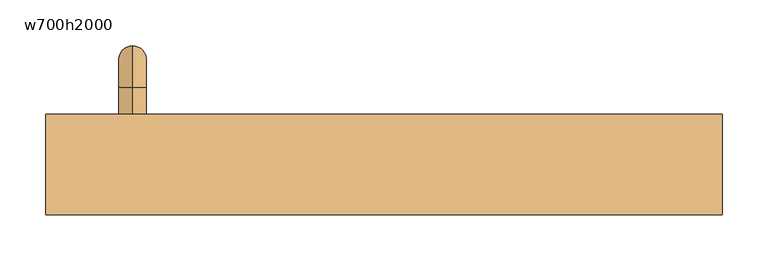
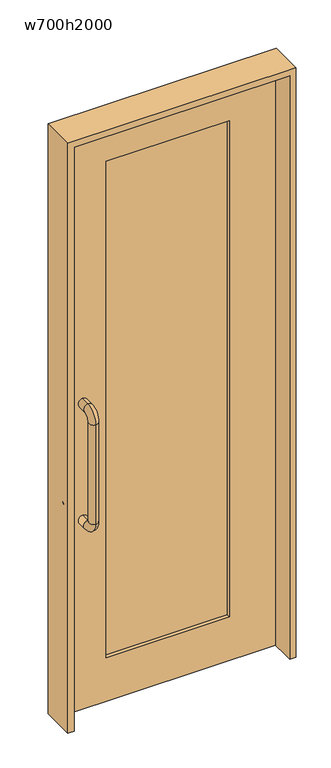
"""IFC4 building model written with IfcOpenShell, lengths in millimetres: door geometry, 片開き_ガラス四方框 : w700h2000."""

import ifcopenshell
import ifcopenshell.guid

model = None  # the IFC model being written
_history = None  # IfcOwnerHistory: only IFC2X3 demands one
_inside = {}  # id of a spatial element -> (the spatial element, [elements in it])
_under = {}  # id of a project, library or spatial element -> (it, [spatial elements below it])
_declared = {}  # id of a project -> (the project, [libraries it declares])
_typed = {}  # id of a type object -> (the type object, [elements of that type])
_made_of = {}  # id of a material, layer set ... -> (it, [elements and type objects made of it])


def new_model(schema):
    """Start an empty IFC model of exactly this schema.

    Asked for "IFC4X3", IfcOpenShell would pick the latest addendum, in which some entities
    have other attributes; the version numbers below select the first issue.
    IFC2X3 requires an IfcOwnerHistory on every rooted entity: one is made here for all.
    """
    global model, _history
    if schema == "IFC4X3":
        model = ifcopenshell.file(schema_version=(4, 3, 0, 0))
    else:
        model = ifcopenshell.file(schema=schema)
    _inside.clear()
    _under.clear()
    _declared.clear()
    _typed.clear()
    _made_of.clear()
    _history = None
    if model.schema == "IFC2X3":
        org = make("IfcOrganization", Name="unknown")
        user = make(
            "IfcPersonAndOrganization",
            ThePerson=make("IfcPerson", FamilyName="unknown"),
            TheOrganization=org,
        )
        app = make(
            "IfcApplication",
            ApplicationDeveloper=org,
            Version="unknown",
            ApplicationFullName="unknown",
            ApplicationIdentifier="unknown",
        )
        _history = make(
            "IfcOwnerHistory",
            OwningUser=user,
            OwningApplication=app,
            ChangeAction="ADDED",
            CreationDate=0,
        )
    return model


def make(cls, **values):
    """One entity of the class cls with the attributes given. An attribute that is None is left unset."""
    return model.create_entity(
        cls, **{name: value for name, value in values.items() if value is not None}
    )


def rooted(cls, **values):
    """An entity with a GlobalId (a new one), such as an element, a storey or a relation."""
    return make(cls, GlobalId=ifcopenshell.guid.new(), OwnerHistory=_history, **values)


def si_unit(unit_type, name, prefix=None):
    """IfcSIUnit, for example si_unit("LENGTHUNIT", "METRE", prefix="MILLI")."""
    return make("IfcSIUnit", UnitType=unit_type, Prefix=prefix, Name=name)


def assignment(units):
    """IfcUnitAssignment: the units of a project."""
    return None if units is None else make("IfcUnitAssignment", Units=units)


def point(xyz):
    """IfcCartesianPoint."""
    return None if xyz is None else make("IfcCartesianPoint", Coordinates=xyz)


def direction(xyz):
    """IfcDirection."""
    return None if xyz is None else make("IfcDirection", DirectionRatios=xyz)


def frame(location, z_axis=None, x_axis=None):
    """IfcAxis2Placement3D, a coordinate frame: its origin and axes. An axis left out is left unset."""
    return make(
        "IfcAxis2Placement3D",
        Location=point(location),
        Axis=direction(z_axis),
        RefDirection=direction(x_axis),
    )


def origin():
    """The frame at (0, 0, 0) with its axes left unset."""
    return frame((0.0, 0.0, 0.0))


def place(relative_to, where):
    """IfcLocalPlacement: puts the frame where relative to a parent placement (None: the world)."""
    return make(
        "IfcLocalPlacement", PlacementRelTo=relative_to, RelativePlacement=where
    )


def context(
    kind, dimensions, precision=None, world=None, true_north=None, identifier=None
):
    """IfcGeometricRepresentationContext, for example the 3D "Model" context."""
    return make(
        "IfcGeometricRepresentationContext",
        ContextIdentifier=identifier,
        ContextType=kind,
        CoordinateSpaceDimension=dimensions,
        Precision=precision,
        WorldCoordinateSystem=world,
        TrueNorth=true_north,
    )


def project(units=None, contexts=None):
    """IfcProject with its units and contexts."""
    return rooted(
        "IfcProject",
        Name="project",
        RepresentationContexts=contexts,
        UnitsInContext=assignment(units),
    )


def spatial(cls, under=None, at=None, **own):
    """A site, building, storey or space (cls), placed at a placement, below another one or the project."""
    s = rooted(cls, ObjectPlacement=at, **own)
    if under is not None:
        _under.setdefault(under.id(), (under, []))[1].append(s)
    return s


def polyline(points):
    """IfcPolyline through the points."""
    return make("IfcPolyline", Points=[point(p) for p in points])


def circle_curve(where, radius):
    """IfcCircle in the frame where."""
    return make("IfcCircle", Position=where, Radius=radius)


def ellipse_curve(where, semi_axis1, semi_axis2):
    """IfcEllipse in the frame where."""
    return make(
        "IfcEllipse", Position=where, SemiAxis1=semi_axis1, SemiAxis2=semi_axis2
    )


def trimmed(basis, trim1, trim2, sense, master):
    """IfcTrimmedCurve: the piece of a basis curve between two trims."""
    return make(
        "IfcTrimmedCurve",
        BasisCurve=basis,
        Trim1=trim1,
        Trim2=trim2,
        SenseAgreement=sense,
        MasterRepresentation=master,
    )


def outline(outer, holes=None, kind="AREA"):
    """IfcArbitraryClosedProfileDef: a profile drawn as a closed curve; with holes, ...WithVoids."""
    if holes is None:
        return make("IfcArbitraryClosedProfileDef", ProfileType=kind, OuterCurve=outer)
    return make(
        "IfcArbitraryProfileDefWithVoids",
        ProfileType=kind,
        OuterCurve=outer,
        InnerCurves=holes,
    )


def extrude(swept, where, along, depth):
    """IfcExtrudedAreaSolid: the profile swept, set in the frame where, extruded along a direction by depth."""
    return make(
        "IfcExtrudedAreaSolid",
        SweptArea=swept,
        Position=where,
        ExtrudedDirection=direction(along),
        Depth=depth,
    )


def shape(context_of_items, identifier, shape_type, items):
    """IfcShapeRepresentation: the items that make up one representation, for example the "Body"."""
    return make(
        "IfcShapeRepresentation",
        ContextOfItems=context_of_items,
        RepresentationIdentifier=identifier,
        RepresentationType=shape_type,
        Items=items,
    )


def source(mapping_origin, context_of_items, identifier, shape_type, items):
    """IfcRepresentationMap: a shape defined once, which mapped items show again and again."""
    return make(
        "IfcRepresentationMap",
        MappingOrigin=mapping_origin,
        MappedRepresentation=shape(context_of_items, identifier, shape_type, items),
    )


def transform(
    local_origin,
    x_axis=None,
    y_axis=None,
    z_axis=None,
    scale=None,
    scale2=None,
    scale3=None,
    uniform=True,
):
    """IfcCartesianTransformationOperator3D, or its non-uniform kind. x_axis, y_axis, z_axis: its Axis1, 2, 3."""
    if uniform:
        return make(
            "IfcCartesianTransformationOperator3D",
            Axis1=direction(x_axis),
            Axis2=direction(y_axis),
            LocalOrigin=point(local_origin),
            Scale=scale,
            Axis3=direction(z_axis),
        )
    return make(
        "IfcCartesianTransformationOperator3DnonUniform",
        Axis1=direction(x_axis),
        Axis2=direction(y_axis),
        LocalOrigin=point(local_origin),
        Scale=scale,
        Axis3=direction(z_axis),
        Scale2=scale2,
        Scale3=scale3,
    )


def mapped(mapping_source, mapping_target):
    """IfcMappedItem: shows the shape of a source again, moved by a transform."""
    return make(
        "IfcMappedItem", MappingSource=mapping_source, MappingTarget=mapping_target
    )


def made_of(thing, what):
    """Note that an element or type object is made of a material, layer set ...; save() writes the relation."""
    if what is not None:
        _made_of.setdefault(what.id(), (what, []))[1].append(thing)
    return thing


def element(
    cls,
    number,
    at=None,
    inside=None,
    cuts=None,
    type_object=None,
    material=None,
    context=None,
    identifier="Body",
    shape_type=None,
    held_by="IfcProductDefinitionShape",
    body=None,
    shapes=None,
    **own,
):
    """One element of the class cls, such as IfcWall. Its Tag is "e" and its number.

    at: its placement. inside: the storey or other place that contains it. cuts: it is an
    opening in that element (IfcRelVoidsElement). A single representation is given by context,
    identifier, shape_type and body (its items); several are given by shapes. held_by: the class
    of the entity that holds the representations. save() writes the other relations.
    """
    e = rooted(cls, Tag="e%d" % number, ObjectPlacement=at, **own)
    if body is not None:
        shapes = [shape(context, identifier, shape_type, body)]
    if shapes is not None:
        e.Representation = make(held_by, Representations=shapes)
    if inside is not None:
        _inside.setdefault(inside.id(), (inside, []))[1].append(e)
    if cuts is not None:
        rooted(
            "IfcRelVoidsElement", RelatingBuildingElement=cuts, RelatedOpeningElement=e
        )
    if type_object is not None:
        _typed.setdefault(type_object.id(), (type_object, []))[1].append(e)
    return made_of(e, material)


def aggregate(whole, parts):
    """IfcRelAggregates: a whole, such as a stair, and the parts it consists of."""
    return rooted("IfcRelAggregates", RelatingObject=whole, RelatedObjects=parts)


def save(model, path):
    """Write the relations noted so far, then the file.

    IfcRelAggregates (storeys below a building ...), IfcRelContainedInSpatialStructure (elements
    in a storey), IfcRelDefinesByType, IfcRelAssociatesMaterial and IfcRelDeclares: one each for
    every whole, place, type object, material and project.
    """
    for whole, parts in _under.values():
        aggregate(whole, parts)
    for where, things in _inside.values():
        rooted(
            "IfcRelContainedInSpatialStructure",
            RelatedElements=things,
            RelatingStructure=where,
        )
    for kind, things in _typed.values():
        rooted("IfcRelDefinesByType", RelatedObjects=things, RelatingType=kind)
    for what, things in _made_of.values():
        rooted("IfcRelAssociatesMaterial", RelatedObjects=things, RelatingMaterial=what)
    for by, libraries in _declared.values():
        rooted("IfcRelDeclares", RelatingContext=by, RelatedDefinitions=libraries)
    model.write(path)


def cylinder_surface(at, radius):
    """IfcCylindricalSurface: all points at the distance radius from the z axis of the frame at."""
    return make("IfcCylindricalSurface", Position=at, Radius=radius)


def revolved_surface(curve, axis_point, axis_direction):
    """IfcSurfaceOfRevolution: the curve turned about the line through axis_point along axis_direction."""
    return make(
        "IfcSurfaceOfRevolution",
        SweptCurve=make("IfcArbitraryOpenProfileDef", ProfileType="CURVE", Curve=curve),
        AxisPosition=make("IfcAxis1Placement", Location=point(axis_point), Axis=direction(axis_direction)),
    )


def advanced_brep(points, edges, surfaces, faces):
    """IfcAdvancedBrep: a solid bounded by faces that lie on surfaces and meet in shared edges.

    An edge is (start, end): straight between two places in points (the first is 0);
    or (start, end, curve); or (start, end, curve, False) where it runs against its curve.
    A face is (place in surfaces, loops), or (place, loops, False) where it looks against
    its surface's normal. A loop lists edges by number (the first is 1), with a minus sign
    where the edge is run from its end to its start. The first loop is the outer one.
    """
    corners = [point(p) for p in points]
    vertices = [make("IfcVertexPoint", VertexGeometry=c) for c in corners]
    made = []
    for start, end, *more in edges:
        made.append(
            make(
                "IfcEdgeCurve",
                EdgeStart=vertices[start],
                EdgeEnd=vertices[end],
                EdgeGeometry=more[0] if more else make("IfcPolyline", Points=[corners[start], corners[end]]),
                SameSense=more[1] if len(more) > 1 else True,
            )
        )
    hull = []
    for where, loops, *sense in faces:
        bounds = []
        for j, loop in enumerate(loops):
            ring = [make("IfcOrientedEdge", EdgeElement=made[abs(k) - 1], Orientation=k > 0) for k in loop]
            bounds.append(
                make(
                    "IfcFaceOuterBound" if j == 0 else "IfcFaceBound",
                    Bound=make("IfcEdgeLoop", EdgeList=ring),
                    Orientation=True,
                )
            )
        hull.append(make("IfcAdvancedFace", Bounds=bounds, FaceSurface=surfaces[where], SameSense=sense[0] if sense else True))
    return make("IfcAdvancedBrep", Outer=make("IfcClosedShell", CfsFaces=hull))


def w700h2000_6d93f0d2(model_context):
    return source(origin(), model_context, "Body", "SolidModel", [
        advanced_brep(
        [(-275.0, 100.0, 680.0), (-275.0, 85.0, 665.0), (-275.0, 85.0, 635.0), (-275.0, 130.0, 680.0), (-275.0, 130.0, 1020.0), (-275.0, 100.0, 1020.0), (-275.0, 85.0, 1035.0), (-275.0, 85.0, 1065.0), (-275.0, -5.0, 1065.0), (-275.0, -5.0, 1035.0), (-275.0, -20.0, 1020.0), (-275.0, -50.0, 1020.0), (-275.0, -50.0, 680.0), (-275.0, -20.0, 680.0), (-275.0, -5.0, 665.0), (-275.0, -5.0, 635.0)],
        [
            (0, 1, circle_curve(frame((-275.0, 85.0, 680.0), z_axis=(-1.0, 0.0, 0.0), x_axis=(0.0, 0.0, -1.0)), 15.0)),
            (1, 2, circle_curve(frame((-275.0, 85.0, 650.0), z_axis=(0.0, 1.0, 0.0), x_axis=(0.0, 0.0, 1.0)), 15.0)),
            (2, 3, circle_curve(frame((-275.0, 85.0, 680.0), z_axis=(1.0, 0.0, 0.0), x_axis=(0.0, 0.0, -1.0)), 45.0)),
            (3, 0, circle_curve(frame((-275.0, 115.0, 680.0), z_axis=(0.0, 0.0, -1.0), x_axis=(0.0, -1.0, 0.0)), 15.0)),
            (2, 1, circle_curve(frame((-275.0, 85.0, 650.0), z_axis=(0.0, 1.0, 0.0), x_axis=(0.0, 0.0, 1.0)), 15.0)),
            (0, 3, circle_curve(frame((-275.0, 115.0, 680.0), z_axis=(0.0, 0.0, -1.0), x_axis=(0.0, -1.0, 0.0)), 15.0)),
            (3, 4),
            (4, 5, circle_curve(frame((-275.0, 115.0, 1020.0), z_axis=(0.0, 0.0, -1.0), x_axis=(0.0, -1.0, 0.0)), 15.0)),
            (5, 0),
            (5, 4, circle_curve(frame((-275.0, 115.0, 1020.0), z_axis=(0.0, 0.0, -1.0), x_axis=(0.0, -1.0, 0.0)), 15.0)),
            (6, 5, circle_curve(frame((-275.0, 85.0, 1020.0), z_axis=(-1.0, 0.0, 0.0), x_axis=(0.0, 1.0, 0.0)), 15.0)),
            (4, 7, circle_curve(frame((-275.0, 85.0, 1020.0), z_axis=(1.0, 0.0, 0.0), x_axis=(0.0, 1.0, 0.0)), 45.0)),
            (7, 6, circle_curve(frame((-275.0, 85.0, 1050.0), z_axis=(0.0, 1.0, 0.0), x_axis=(0.0, 0.0, -1.0)), 15.0)),
            (6, 7, circle_curve(frame((-275.0, 85.0, 1050.0), z_axis=(0.0, 1.0, 0.0), x_axis=(0.0, 0.0, -1.0)), 15.0)),
            (7, 8),
            (8, 9, circle_curve(frame((-275.0, -5.0, 1050.0), z_axis=(0.0, 1.0, 0.0), x_axis=(0.0, 0.0, -1.0)), 15.0)),
            (9, 6),
            (9, 8, circle_curve(frame((-275.0, -5.0, 1050.0), z_axis=(0.0, 1.0, 0.0), x_axis=(0.0, 0.0, -1.0)), 15.0)),
            (10, 9, circle_curve(frame((-275.0, -5.0, 1020.0), z_axis=(-1.0, 0.0, 0.0), x_axis=(0.0, 0.0, 1.0)), 15.0)),
            (8, 11, circle_curve(frame((-275.0, -5.0, 1020.0), z_axis=(1.0, 0.0, 0.0), x_axis=(0.0, 0.0, 1.0)), 45.0)),
            (11, 10, circle_curve(frame((-275.0, -35.0, 1020.0), z_axis=(0.0, 0.0, 1.0), x_axis=(0.0, 1.0, 0.0)), 15.0)),
            (10, 11, circle_curve(frame((-275.0, -35.0, 1020.0), z_axis=(0.0, 0.0, 1.0), x_axis=(0.0, 1.0, 0.0)), 15.0)),
            (11, 12),
            (12, 13, circle_curve(frame((-275.0, -35.0, 680.0), z_axis=(0.0, 0.0, 1.0), x_axis=(0.0, 1.0, 0.0)), 15.0)),
            (13, 10),
            (13, 12, circle_curve(frame((-275.0, -35.0, 680.0), z_axis=(0.0, 0.0, 1.0), x_axis=(0.0, 1.0, 0.0)), 15.0)),
            (14, 13, circle_curve(frame((-275.0, -5.0, 680.0), z_axis=(-1.0, 0.0, 0.0), x_axis=(0.0, -1.0, 0.0)), 15.0)),
            (12, 15, circle_curve(frame((-275.0, -5.0, 680.0), z_axis=(1.0, 0.0, 0.0), x_axis=(0.0, -1.0, 0.0)), 45.0)),
            (15, 14, circle_curve(frame((-275.0, -5.0, 650.0), z_axis=(0.0, -1.0, 0.0), x_axis=(0.0, 0.0, 1.0)), 15.0)),
            (14, 15, circle_curve(frame((-275.0, -5.0, 650.0), z_axis=(0.0, -1.0, 0.0), x_axis=(0.0, 0.0, 1.0)), 15.0)),
            (15, 2),
            (1, 14),
        ],
        [
            revolved_surface(trimmed(ellipse_curve(frame((-275.0, 85.0, 650.0), z_axis=(0.0, -1.0, 0.0), x_axis=(0.0, 0.0, 1.0)), 15.0, 15.0), [point((-275.0, 85.0, 635.0))], [point((-275.0, 85.0, 665.0))], True, "CARTESIAN"), (-275.0, 85.0, 680.0), (1.0, 0.0, 0.0)),
            revolved_surface(trimmed(ellipse_curve(frame((-275.0, 85.0, 650.0), z_axis=(0.0, -1.0, 0.0), x_axis=(0.0, 0.0, 1.0)), 15.0, 15.0), [point((-275.0, 85.0, 665.0))], [point((-275.0, 85.0, 635.0))], True, "CARTESIAN"), (-275.0, 85.0, 680.0), (1.0, 0.0, 0.0)),
            cylinder_surface(frame((-275.0, 115.0, 680.0), z_axis=(0.0, 0.0, -1.0), x_axis=(0.0, -1.0, 0.0)), 15.0),
            revolved_surface(trimmed(ellipse_curve(frame((-275.0, 115.0, 1020.0), z_axis=(0.0, 0.0, -1.0), x_axis=(0.0, -1.0, 0.0)), 15.0, 15.0), [point((-275.0, 130.0, 1020.0))], [point((-275.0, 100.0, 1020.0))], True, "CARTESIAN"), (-275.0, 85.0, 1020.0), (1.0, 0.0, 0.0)),
            revolved_surface(trimmed(ellipse_curve(frame((-275.0, 115.0, 1020.0), z_axis=(0.0, 0.0, -1.0), x_axis=(0.0, -1.0, 0.0)), 15.0, 15.0), [point((-275.0, 100.0, 1020.0))], [point((-275.0, 130.0, 1020.0))], True, "CARTESIAN"), (-275.0, 85.0, 1020.0), (1.0, 0.0, 0.0)),
            cylinder_surface(frame((-275.0, 85.0, 1050.0), z_axis=(0.0, 1.0, 0.0), x_axis=(0.0, 0.0, -1.0)), 15.0),
            revolved_surface(trimmed(ellipse_curve(frame((-275.0, -5.0, 1050.0), z_axis=(0.0, 1.0, 0.0), x_axis=(0.0, 0.0, -1.0)), 15.0, 15.0), [point((-275.0, -5.0, 1065.0))], [point((-275.0, -5.0, 1035.0))], True, "CARTESIAN"), (-275.0, -5.0, 1020.0), (1.0, 0.0, 0.0)),
            revolved_surface(trimmed(ellipse_curve(frame((-275.0, -5.0, 1050.0), z_axis=(0.0, 1.0, 0.0), x_axis=(0.0, 0.0, -1.0)), 15.0, 15.0), [point((-275.0, -5.0, 1035.0))], [point((-275.0, -5.0, 1065.0))], True, "CARTESIAN"), (-275.0, -5.0, 1020.0), (1.0, 0.0, 0.0)),
            cylinder_surface(frame((-275.0, -35.0, 1020.0), z_axis=(0.0, 0.0, 1.0), x_axis=(0.0, 1.0, 0.0)), 15.0),
            revolved_surface(trimmed(ellipse_curve(frame((-275.0, -35.0, 680.0), z_axis=(0.0, 0.0, 1.0), x_axis=(0.0, 1.0, 0.0)), 15.0, 15.0), [point((-275.0, -50.0, 680.0))], [point((-275.0, -20.0, 680.0))], True, "CARTESIAN"), (-275.0, -5.0, 680.0), (1.0, 0.0, 0.0)),
            revolved_surface(trimmed(ellipse_curve(frame((-275.0, -35.0, 680.0), z_axis=(0.0, 0.0, 1.0), x_axis=(0.0, 1.0, 0.0)), 15.0, 15.0), [point((-275.0, -20.0, 680.0))], [point((-275.0, -50.0, 680.0))], True, "CARTESIAN"), (-275.0, -5.0, 680.0), (1.0, 0.0, 0.0)),
            cylinder_surface(frame((-275.0, -5.0, 650.0), z_axis=(0.0, -1.0, 0.0), x_axis=(0.0, 0.0, 1.0)), 15.0),
        ],
        [
            (0, [[1, 2, 3, 4]]),
            (1, [[-3, 5, -1, 6]]),
            (2, [[-4, 7, 8, 9]]),
            (2, [[-6, -9, 10, -7]]),
            (3, [[11, -8, 12, 13]]),
            (4, [[-12, -10, -11, 14]]),
            (5, [[-13, 15, 16, 17]]),
            (5, [[-14, -17, 18, -15]]),
            (6, [[19, -16, 20, 21]]),
            (7, [[-20, -18, -19, 22]]),
            (8, [[-21, 23, 24, 25]]),
            (8, [[-22, -25, 26, -23]]),
            (9, [[27, -24, 28, 29]]),
            (10, [[-28, -26, -27, 30]]),
            (11, [[-29, 31, -2, 32]]),
            (11, [[-30, -32, -5, -31]]),
        ],
    ),
        extrude(outline(polyline([(200.0, 37.5), (-200.0, 37.5), (-200.0, 42.5), (200.0, 42.5), (200.0, 37.5)])), frame((0.0, 0.0, 150.0), z_axis=(0.0, 0.0, 1.0), x_axis=(1.0, 0.0, 0.0)), (0.0, 0.0, 1.0), 1700.0),
        extrude(outline(polyline([(2020.0, -370.0), (0.0, -370.0), (0.0, -350.0), (2000.0, -350.0), (2000.0, 350.0), (0.0, 350.0), (0.0, 370.0), (2020.0, 370.0), (2020.0, -370.0)])), frame((0.0, -55.0, 0.0), z_axis=(0.0, 1.0, 0.0), x_axis=(0.0, 0.0, 1.0)), (0.0, 0.0, 1.0), 110.0),
        extrude(outline(polyline([(2000.0, 350.0), (2000.0, -350.0), (0.0, -350.0), (0.0, 350.0), (2000.0, 350.0)]), holes=[polyline([(1850.0, 200.0), (150.0, 200.0), (150.0, -200.0), (1850.0, -200.0), (1850.0, 200.0)])]), frame((0.0, 25.0, 0.0), z_axis=(0.0, 1.0, 0.0), x_axis=(0.0, 0.0, 1.0)), (0.0, 0.0, 1.0), 30.0),
    ])


if __name__ == "__main__":
    model = new_model("IFC4")
    model_context = context("Model", 3, world=origin())
    ifc_project = project(units=[si_unit("LENGTHUNIT", "METRE", prefix="MILLI")], contexts=[model_context])
    site = spatial("IfcSite", under=ifc_project)
    building = spatial("IfcBuilding", under=site)
    placement = place(None, origin())
    w700h2000_shape = w700h2000_6d93f0d2(model_context)
    element("IfcDoor", 1, ObjectType="片開き_ガラス四方框 : w700h2000", at=placement, inside=building, context=model_context, shape_type="MappedRepresentation", body=[
        mapped(w700h2000_shape, transform((0.0, 0.0, 0.0), x_axis=(1.0, 0.0, 0.0), y_axis=(0.0, 1.0, 0.0), z_axis=(0.0, 0.0, 1.0))),
    ])
    save(model, "model.ifc")
